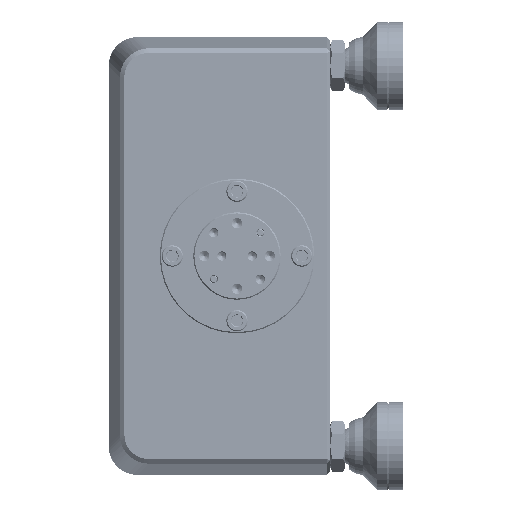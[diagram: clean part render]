
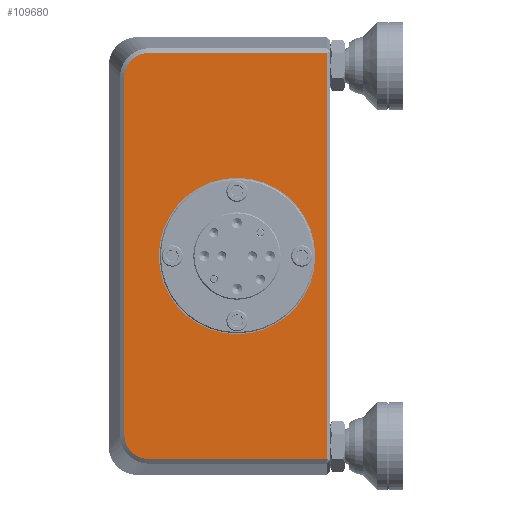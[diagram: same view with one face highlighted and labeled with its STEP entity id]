
A CAD part, left-side view. The second image highlights one B-rep face of the part: STEP entity #109680.
In plain terms, the highlighted planar face has unit normal (-1, 0, 0).
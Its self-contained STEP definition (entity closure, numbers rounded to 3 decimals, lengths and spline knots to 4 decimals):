
#1578 = EDGE_CURVE ( 'NONE', #179971, #207549, #236492, .T. ) ;
#4341 = CARTESIAN_POINT ( 'NONE',  ( -0.753, 1.7234, 1.6599 ) ) ;
#4346 = B_SPLINE_CURVE_WITH_KNOTS ( 'NONE', 3,
 ( #6830, #181536, #198052, #46087, #220772, #4341, #63825, #104289, #81557, #119550 ),
 .UNSPECIFIED., .F., .F.,
 ( 4, 2, 2, 2, 4 ),
 ( 0., 0.25, 0.5, 0.75, 1. ),
 .UNSPECIFIED. ) ;
#6830 = CARTESIAN_POINT ( 'NONE',  ( -0.753, 1.5562, 1.7401 ) ) ;
#10481 = EDGE_LOOP ( 'NONE', ( #223126, #156856 ) ) ;
#13123 = VERTEX_POINT ( 'NONE', #175730 ) ;
#14101 = CARTESIAN_POINT ( 'NONE',  ( -0.753, 1.6111, -1.7346 ) ) ;
#14236 = DIRECTION ( 'NONE',  ( 0., 0., -1. ) ) ;
#17907 = VECTOR ( 'NONE', #220079, 39.3701 ) ;
#19705 = FACE_BOUND ( 'NONE', #10481, .T. ) ;
#25571 = CARTESIAN_POINT ( 'NONE',  ( -0.753, 0.03, 1.7401 ) ) ;
#29205 = CARTESIAN_POINT ( 'NONE',  ( -0.753, 0.95, 1.7401 ) ) ;
#29595 = EDGE_CURVE ( 'NONE', #40173, #96585, #164320, .T. ) ;
#33107 = CARTESIAN_POINT ( 'NONE',  ( -0.753, 1.7651, -1.5312 ) ) ;
#34646 = CARTESIAN_POINT ( 'NONE',  ( -0.753, 0.8, 0.67 ) ) ;
#40173 = VERTEX_POINT ( 'NONE', #74484 ) ;
#46087 = CARTESIAN_POINT ( 'NONE',  ( -0.753, 1.6616, 1.7138 ) ) ;
#62588 = CARTESIAN_POINT ( 'NONE',  ( -0.753, 0.8, -0.67 ) ) ;
#62789 = ORIENTED_EDGE ( 'NONE', *, *, #105286, .T. ) ;
#63825 = CARTESIAN_POINT ( 'NONE',  ( -0.753, 1.7388, 1.6366 ) ) ;
#66843 = EDGE_CURVE ( 'NONE', #207549, #179971, #90666, .T. ) ;
#71892 = CARTESIAN_POINT ( 'NONE',  ( -0.753, 0.95, -1.7401 ) ) ;
#72289 = CARTESIAN_POINT ( 'NONE',  ( -0.753, 1.5837, -1.7401 ) ) ;
#74484 = CARTESIAN_POINT ( 'NONE',  ( -0.753, 0.03, -1.7401 ) ) ;
#75752 = AXIS2_PLACEMENT_3D ( 'NONE', #105291, #162251, #219278 ) ;
#77251 = EDGE_CURVE ( 'NONE', #199547, #13123, #217065, .T. ) ;
#77920 = FACE_OUTER_BOUND ( 'NONE', #130420, .T. ) ;
#80684 = EDGE_CURVE ( 'NONE', #96585, #124025, #202672, .T. ) ;
#81557 = CARTESIAN_POINT ( 'NONE',  ( -0.753, 1.7651, 1.5587 ) ) ;
#85051 = PLANE ( 'NONE',  #75752 ) ;
#90666 = CIRCLE ( 'NONE', #187740, 0.67 ) ;
#94860 = ORIENTED_EDGE ( 'NONE', *, *, #134340, .T. ) ;
#96585 = VERTEX_POINT ( 'NONE', #25571 ) ;
#96922 = VECTOR ( 'NONE', #14236, 39.3701 ) ;
#98992 = EDGE_CURVE ( 'NONE', #146281, #199547, #125653, .T. ) ;
#100697 = VECTOR ( 'NONE', #106420, 39.3701 ) ;
#104289 = CARTESIAN_POINT ( 'NONE',  ( -0.753, 1.7596, 1.5861 ) ) ;
#105286 = EDGE_CURVE ( 'NONE', #13123, #40173, #245394, .T. ) ;
#105291 = CARTESIAN_POINT ( 'NONE',  ( -0.753, 0.95, 0. ) ) ;
#106420 = DIRECTION ( 'NONE',  ( 0., 1., 0. ) ) ;
#109680 = ADVANCED_FACE ( 'NONE', ( #77920, #19705 ), #85051, .F. ) ;
#110305 = CARTESIAN_POINT ( 'NONE',  ( -0.753, 1.6849, -1.6984 ) ) ;
#114027 = CARTESIAN_POINT ( 'NONE',  ( -0.753, 1.6616, -1.7138 ) ) ;
#115275 = CARTESIAN_POINT ( 'NONE',  ( -0.753, 1.7596, -1.5861 ) ) ;
#119550 = CARTESIAN_POINT ( 'NONE',  ( -0.753, 1.7651, 1.5312 ) ) ;
#123234 = ORIENTED_EDGE ( 'NONE', *, *, #77251, .T. ) ;
#124025 = VERTEX_POINT ( 'NONE', #187593 ) ;
#125653 = LINE ( 'NONE', #145906, #96922 ) ;
#126001 = DIRECTION ( 'NONE',  ( 0., 0., 1. ) ) ;
#130124 = DIRECTION ( 'NONE',  ( 0., -1., 0. ) ) ;
#130420 = EDGE_LOOP ( 'NONE', ( #123234, #62789, #217074, #154893, #94860, #175057 ) ) ;
#134340 = EDGE_CURVE ( 'NONE', #124025, #146281, #4346, .T. ) ;
#145200 = DIRECTION ( 'NONE',  ( 0., 0., 1. ) ) ;
#145906 = CARTESIAN_POINT ( 'NONE',  ( -0.753, 1.7651, 0. ) ) ;
#146281 = VERTEX_POINT ( 'NONE', #176768 ) ;
#147511 = CARTESIAN_POINT ( 'NONE',  ( -0.753, 0.8, 0. ) ) ;
#149510 = CARTESIAN_POINT ( 'NONE',  ( -0.753, 1.5562, -1.7401 ) ) ;
#154893 = ORIENTED_EDGE ( 'NONE', *, *, #80684, .T. ) ;
#156856 = ORIENTED_EDGE ( 'NONE', *, *, #1578, .F. ) ;
#162251 = DIRECTION ( 'NONE',  ( 1., 0., 0. ) ) ;
#164187 = DIRECTION ( 'NONE',  ( -1., 0., 0. ) ) ;
#164320 = LINE ( 'NONE', #223833, #17907 ) ;
#167017 = VECTOR ( 'NONE', #130124, 39.3701 ) ;
#171017 = CARTESIAN_POINT ( 'NONE',  ( -0.753, 1.7234, -1.6599 ) ) ;
#175057 = ORIENTED_EDGE ( 'NONE', *, *, #98992, .T. ) ;
#175730 = CARTESIAN_POINT ( 'NONE',  ( -0.753, 1.5562, -1.7401 ) ) ;
#176768 = CARTESIAN_POINT ( 'NONE',  ( -0.753, 1.7651, 1.5312 ) ) ;
#177287 = CARTESIAN_POINT ( 'NONE',  ( -0.753, 1.7651, -1.5312 ) ) ;
#179971 = VERTEX_POINT ( 'NONE', #62588 ) ;
#181536 = CARTESIAN_POINT ( 'NONE',  ( -0.753, 1.5836, 1.7401 ) ) ;
#181960 = CARTESIAN_POINT ( 'NONE',  ( -0.753, 0.8, 0. ) ) ;
#187593 = CARTESIAN_POINT ( 'NONE',  ( -0.753, 1.5562, 1.7401 ) ) ;
#187740 = AXIS2_PLACEMENT_3D ( 'NONE', #147511, #241264, #126001 ) ;
#190027 = CARTESIAN_POINT ( 'NONE',  ( -0.753, 1.7651, -1.5586 ) ) ;
#192517 = CARTESIAN_POINT ( 'NONE',  ( -0.753, 1.7388, -1.6366 ) ) ;
#198052 = CARTESIAN_POINT ( 'NONE',  ( -0.753, 1.6111, 1.7346 ) ) ;
#199547 = VERTEX_POINT ( 'NONE', #177287 ) ;
#202672 = LINE ( 'NONE', #29205, #100697 ) ;
#207549 = VERTEX_POINT ( 'NONE', #34646 ) ;
#217065 = B_SPLINE_CURVE_WITH_KNOTS ( 'NONE', 3,
 ( #33107, #190027, #115275, #192517, #171017, #110305, #114027, #14101, #72289, #149510 ),
 .UNSPECIFIED., .F., .F.,
 ( 4, 2, 2, 2, 4 ),
 ( 0., 0.25, 0.5, 0.75, 1. ),
 .UNSPECIFIED. ) ;
#217074 = ORIENTED_EDGE ( 'NONE', *, *, #29595, .T. ) ;
#219278 = DIRECTION ( 'NONE',  ( 0., 0., -1. ) ) ;
#220079 = DIRECTION ( 'NONE',  ( 0., 0., 1. ) ) ;
#220772 = CARTESIAN_POINT ( 'NONE',  ( -0.753, 1.6849, 1.6984 ) ) ;
#223126 = ORIENTED_EDGE ( 'NONE', *, *, #66843, .F. ) ;
#223833 = CARTESIAN_POINT ( 'NONE',  ( -0.753, 0.03, 0. ) ) ;
#236492 = CIRCLE ( 'NONE', #240477, 0.67 ) ;
#240477 = AXIS2_PLACEMENT_3D ( 'NONE', #181960, #164187, #145200 ) ;
#241264 = DIRECTION ( 'NONE',  ( -1., 0., 0. ) ) ;
#245394 = LINE ( 'NONE', #71892, #167017 ) ;
